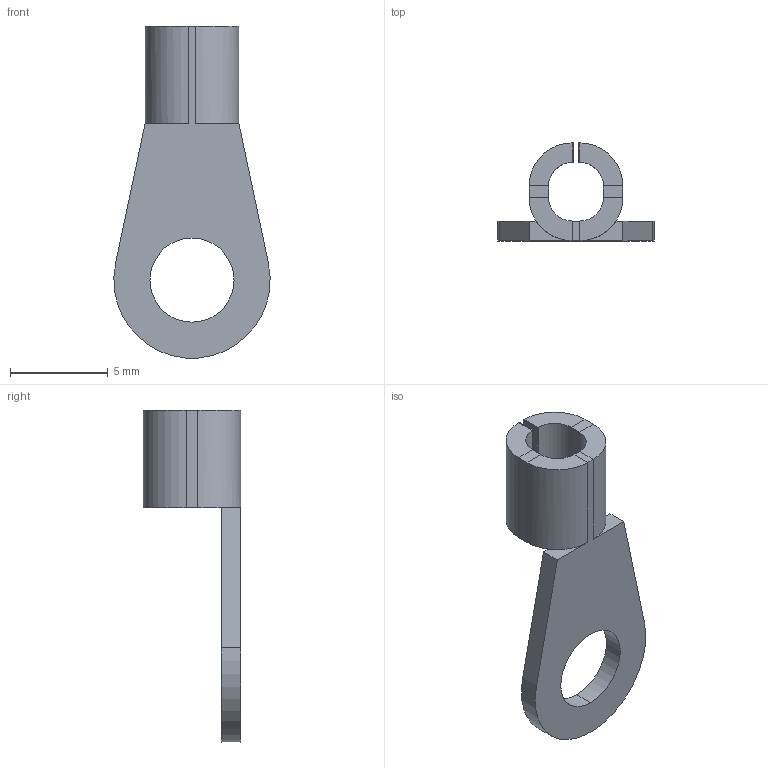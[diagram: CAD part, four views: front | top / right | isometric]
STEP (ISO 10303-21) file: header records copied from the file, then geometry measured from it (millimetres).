
FILE_DESCRIPTION (( 'STEP AP214' ), '1' );
FILE_NAME ('2,5-4-ﾊ-ﾋﾒ-06.STEP', '2013-04-05T11:58:42', ( 'Tester2' ), ( '' ), 'SwSTEP 2.0', 'SolidWorks 2012', '' );
FILE_SCHEMA (( 'AUTOMOTIVE_DESIGN' ));
Length unit declared in the file: millimetre
Products named in the file (1): 2,5-4-ﾊ-ﾋﾒ-06
Bounding box: 7.99 x 5 x 16.99 mm (x, y, z)
Volume: 124.4 mm3; surface area: 324.7 mm2
Topology: 1 solids, 1 shells, 44 faces, 96 edges, 54 vertices
Faces by surface type: plane 33, cylinder 11
Entity records: 1202 total; most frequent: DIRECTION 210, CARTESIAN_POINT 195, ORIENTED_EDGE 192, EDGE_CURVE 96, LINE 72, VECTOR 72, AXIS2_PLACEMENT_3D 69, VERTEX_POINT 54
